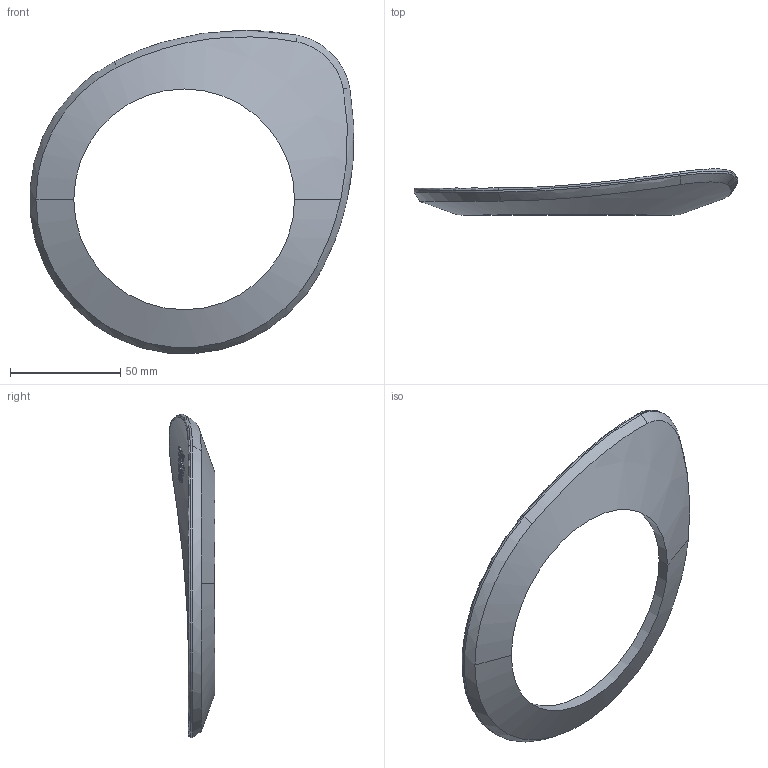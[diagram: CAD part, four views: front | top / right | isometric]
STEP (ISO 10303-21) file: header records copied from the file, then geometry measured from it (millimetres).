
FILE_DESCRIPTION((''),'2;1');
FILE_NAME('AROMA_ERI_V4','2025-04-30T15:07:24',('emma'),(''),'CREO PARAMETRIC BY PTC INC, 2021404','CREO PARAMETRIC BY PTC INC, 2021404','');
FILE_SCHEMA(('CONFIG_CONTROL_DESIGN'));
Length unit declared in the file: millimetre
Products named in the file (1): AROMA_ERI_V4
Bounding box: 146.66 x 20.77 x 146.41 mm (x, y, z)
Volume: 47489.7 mm3; surface area: 23053.4 mm2
Topology: 1 solids, 1 shells, 85 faces, 211 edges, 136 vertices
Faces by surface type: extrusion 47, cone 15, plane 8, bspline 8, cylinder 6, torus 1
Entity records: 3848 total; most frequent: CARTESIAN_POINT 2050, ORIENTED_EDGE 422, EDGE_CURVE 211, DIRECTION 207, B_SPLINE_CURVE_WITH_KNOTS 173, VERTEX_POINT 136, VECTOR 117, EDGE_LOOP 95
